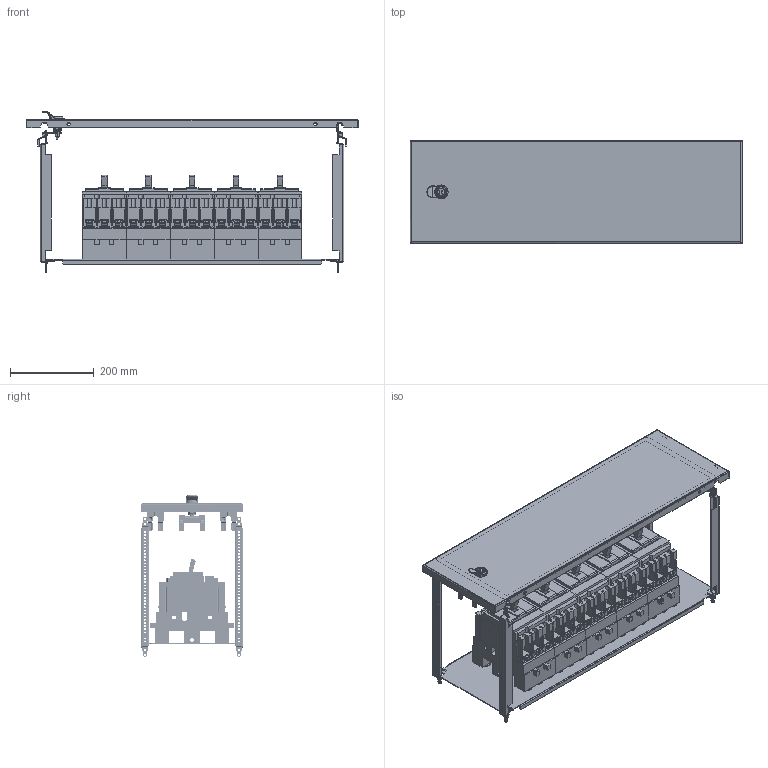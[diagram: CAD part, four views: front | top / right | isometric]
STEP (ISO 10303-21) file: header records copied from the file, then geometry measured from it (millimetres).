
FILE_DESCRIPTION(('CAx-IF Rec.Pracs.---Model Styling and Organization---1.2---2011-12-15','CAx-IF Rec.Pracs.---Geometric and Assembly Validation Properties---4.1---2014-06-16','CAx-IF Rec.Pracs.---PMI Polyline Presentation---2.0---2013-05-24'),'2;1');
FILE_NAME('R5PKEB7V82213 (P).stp','2021-07-29T02:57:22+03:00',(''),(''),'STEP Interface 4.4 by CT CoreTechnologie','3D_Evolution4.4 by CT CoreTechnologie','');
FILE_SCHEMA(('AUTOMOTIVE_DESIGN { 1 0 10303 214 1 1 1 1 }'));
Length unit declared in the file: millimetre
Products named in the file (1): R5PKEB7V82213 (P)
Bounding box: 794 x 245 x 386.89 mm (x, y, z)
Surface area: 2384379 mm2 (no closed solid volume)
Topology: 0 solids, 97 shells, 5946 faces, 17037 edges, 11293 vertices
Faces by surface type: plane 4190, cylinder 1311, bspline 445
Entity records: 203389 total; most frequent: CARTESIAN_POINT 46345, ORIENTED_EDGE 33912, DIRECTION 30707, EDGE_CURVE 16976, VECTOR 13583, LINE 13583, VERTEX_POINT 11378, AXIS2_PLACEMENT_3D 8562
